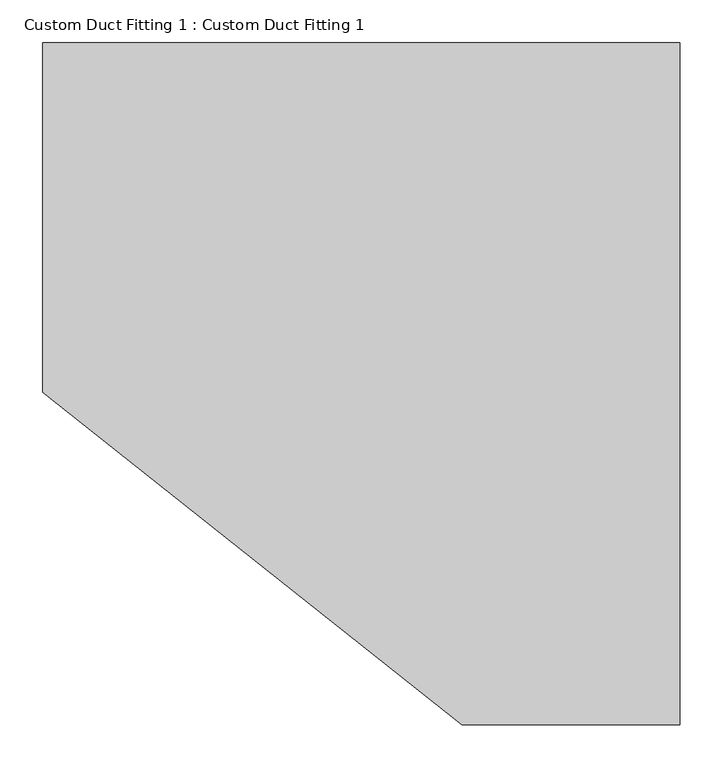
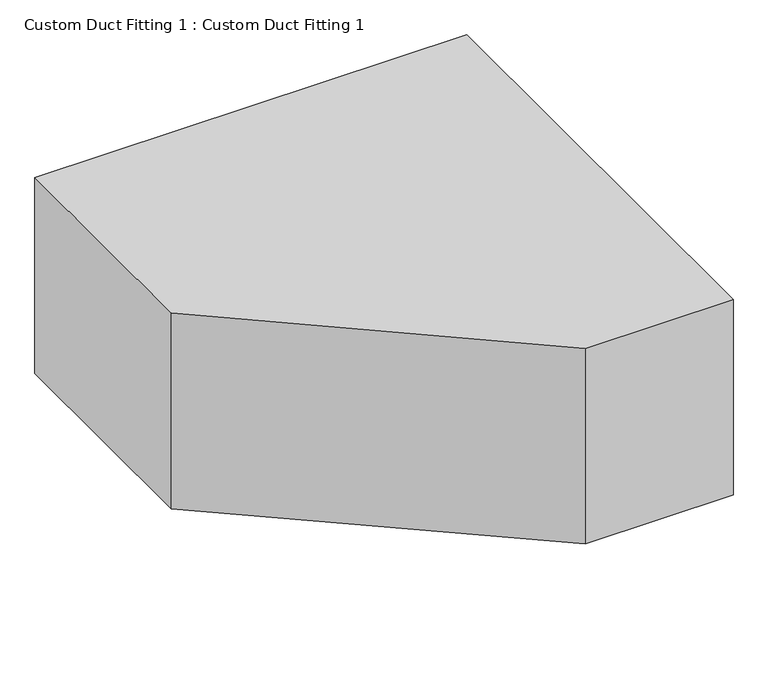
"""IFC4 building model written with IfcOpenShell, lengths in millimetres: duct fitting geometry, Custom Duct Fitting 1 : Custom Duct Fitting 1."""

from ifc_helpers import new_model, si_unit, frame, origin, place, context, project, spatial, polyline, outline, extrude, source, transform, mapped, element, save


def custom_duct_fitting_1_custom_duct_fitting_1_5f1720c7(model_context):
    return source(origin(), model_context, "Body", "SweptSolid", [
        extrude(outline(polyline([(25671.7169326, 28655.8191303), (25671.7169326, 29062.2191303), (26413.4288098, 29062.2191303), (26413.4288098, 28268.7330361), (26159.4288098, 28268.7330361), (25671.7169326, 28655.8191303)])), frame((0.0, 0.0, -25.4), z_axis=(0.0, 0.0, 1.0), x_axis=(1.0, 0.0, 0.0)), (0.0, 0.0, 1.0), 355.6),
    ])


if __name__ == "__main__":
    model = new_model("IFC4")
    model_context = context("Model", 3, world=origin())
    ifc_project = project(units=[si_unit("LENGTHUNIT", "METRE", prefix="MILLI")], contexts=[model_context])
    site = spatial("IfcSite", under=ifc_project)
    building = spatial("IfcBuilding", under=site)
    placement = place(None, origin())
    custom_duct_fitting_1_custom_duct_fitting_1_shape = custom_duct_fitting_1_custom_duct_fitting_1_5f1720c7(model_context)
    element("IfcDuctFitting", 1, ObjectType="Custom Duct Fitting 1 : Custom Duct Fitting 1", at=placement, inside=building, context=model_context, shape_type="MappedRepresentation", body=[
        mapped(custom_duct_fitting_1_custom_duct_fitting_1_shape, transform((0.0, 0.0, 0.0), x_axis=(1.0, 0.0, 0.0), y_axis=(0.0, 1.0, 0.0), z_axis=(0.0, 0.0, 1.0))),
    ])
    save(model, "model.ifc")
